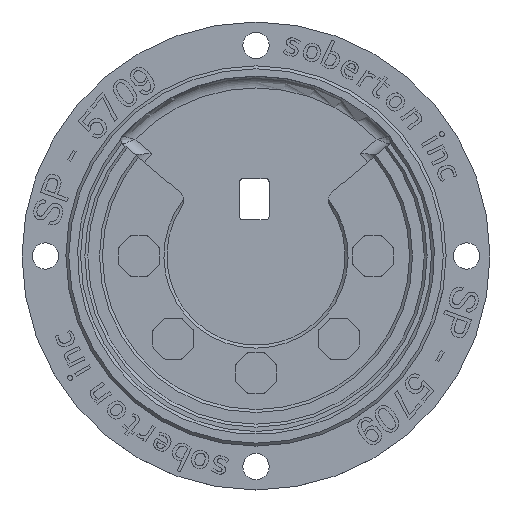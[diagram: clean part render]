
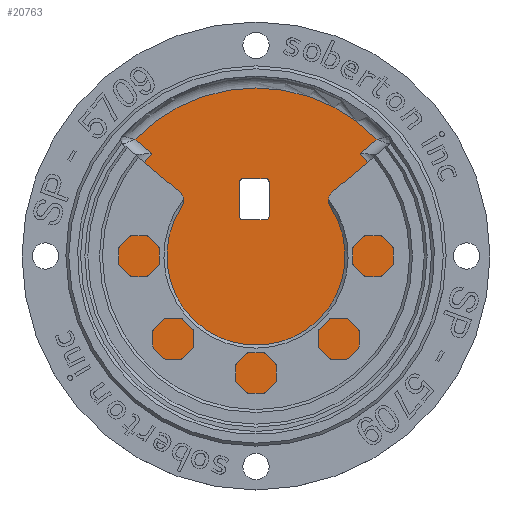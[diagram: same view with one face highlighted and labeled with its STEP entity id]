
A CAD part, top view. The second image highlights one B-rep face of the part: STEP entity #20763.
In plain terms, the highlighted planar face has unit normal (0, 0, 1).
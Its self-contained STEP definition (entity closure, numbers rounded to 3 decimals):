
#455=PLANE('',#21421);
#2391=VECTOR('',#21453,1.);
#2396=VECTOR('',#21477,1.);
#3577=VECTOR('',#23250,1.);
#3580=VECTOR('',#23258,1.);
#3583=VECTOR('',#23266,1.);
#3585=VECTOR('',#23273,1.);
#3990=LINE('',#24206,#2391);
#3995=LINE('',#24490,#2396);
#5176=LINE('',#34287,#3577);
#5179=LINE('',#34295,#3580);
#5182=LINE('',#34303,#3583);
#5184=LINE('',#34309,#3585);
#5583=VERTEX_POINT('',#24162);
#5594=VERTEX_POINT('',#24207);
#5596=VERTEX_POINT('',#24265);
#5604=VERTEX_POINT('',#24489);
#7321=VERTEX_POINT('',#34280);
#7322=VERTEX_POINT('',#34282);
#7323=VERTEX_POINT('',#34286);
#7324=VERTEX_POINT('',#34290);
#7325=VERTEX_POINT('',#34292);
#7326=VERTEX_POINT('',#34298);
#7327=VERTEX_POINT('',#34300);
#7328=VERTEX_POINT('',#34306);
#7658=CIRCLE('',#20776,28.75);
#7664=CIRCLE('',#20787,24.994);
#7776=CIRCLE('',#21203,0.5);
#7777=CIRCLE('',#21206,0.5);
#7778=CIRCLE('',#21209,0.5);
#7779=CIRCLE('',#21212,0.5);
#7847=EDGE_CURVE('',#5583,#5594,#3990,.T.);
#7851=EDGE_CURVE('',#5596,#5583,#7658,.T.);
#7863=EDGE_CURVE('',#5604,#5596,#3995,.T.);
#7874=EDGE_CURVE('',#5604,#5594,#7664,.T.);
#10297=EDGE_CURVE('',#7321,#7322,#7776,.T.);
#10300=EDGE_CURVE('',#7321,#7323,#5176,.T.);
#10302=EDGE_CURVE('',#7324,#7325,#7777,.T.);
#10304=EDGE_CURVE('',#7324,#7322,#5179,.T.);
#10306=EDGE_CURVE('',#7326,#7327,#7778,.T.);
#10308=EDGE_CURVE('',#7326,#7325,#5182,.T.);
#10310=EDGE_CURVE('',#7328,#7323,#7779,.T.);
#10311=EDGE_CURVE('',#7328,#7327,#5184,.T.);
#17138=ORIENTED_EDGE('',*,*,#7874,.T.);
#17139=ORIENTED_EDGE('',*,*,#7847,.F.);
#17140=ORIENTED_EDGE('',*,*,#7851,.F.);
#17141=ORIENTED_EDGE('',*,*,#7863,.F.);
#17142=ORIENTED_EDGE('',*,*,#10306,.F.);
#17143=ORIENTED_EDGE('',*,*,#10308,.T.);
#17144=ORIENTED_EDGE('',*,*,#10302,.F.);
#17145=ORIENTED_EDGE('',*,*,#10304,.T.);
#17146=ORIENTED_EDGE('',*,*,#10297,.F.);
#17147=ORIENTED_EDGE('',*,*,#10300,.T.);
#17148=ORIENTED_EDGE('',*,*,#10310,.F.);
#17149=ORIENTED_EDGE('',*,*,#10311,.T.);
#18390=EDGE_LOOP('',(#17138,#17139,#17140,#17141));
#18391=EDGE_LOOP('',(#17142,#17143,#17144,#17145,#17146,#17147,#17148,#17149));
#19632=FACE_BOUND('',#18390,.T.);
#19633=FACE_BOUND('',#18391,.T.);
#20763=ADVANCED_FACE('',(#19632,#19633),#455,.T.);
#20776=AXIS2_PLACEMENT_3D('',#24266,#21457,#21458);
#20787=AXIS2_PLACEMENT_3D('',#24512,#21491,#21492);
#21203=AXIS2_PLACEMENT_3D('',#34281,#23245,#23246);
#21206=AXIS2_PLACEMENT_3D('',#34291,#23254,#23255);
#21209=AXIS2_PLACEMENT_3D('',#34299,#23262,#23263);
#21212=AXIS2_PLACEMENT_3D('',#34307,#23270,#23271);
#21421=AXIS2_PLACEMENT_3D('',#36760,#23961,$);
#21453=DIRECTION('',(-0.766,-0.643,0.));
#21457=DIRECTION('',(0.,0.,-1.));
#21458=DIRECTION('',(0.,28.75,0.));
#21477=DIRECTION('',(-0.766,0.643,0.));
#21491=DIRECTION('',(0.,0.,1.));
#21492=DIRECTION('',(24.994,0.,0.));
#23245=DIRECTION('',(0.,0.,1.));
#23246=DIRECTION('',(-0.354,0.354,0.));
#23250=DIRECTION('',(1.,0.,0.));
#23254=DIRECTION('',(0.,0.,1.));
#23255=DIRECTION('',(-0.354,-0.354,0.));
#23258=DIRECTION('',(0.,1.,0.));
#23262=DIRECTION('',(0.,0.,1.));
#23263=DIRECTION('',(0.354,-0.354,0.));
#23266=DIRECTION('',(-1.,0.,0.));
#23270=DIRECTION('',(0.,0.,1.));
#23271=DIRECTION('',(0.354,0.354,0.));
#23273=DIRECTION('',(0.,-1.,0.));
#23961=DIRECTION('',(0.,0.,1.));
#24162=CARTESIAN_POINT('',(22.223,19.967,1.75));
#24206=CARTESIAN_POINT('',(6.141,6.474,1.75));
#24207=CARTESIAN_POINT('',(19.338,17.546,1.75));
#24265=CARTESIAN_POINT('',(-19.147,19.967,1.75));
#24266=CARTESIAN_POINT('',(1.538,0.,1.75));
#24489=CARTESIAN_POINT('',(-16.261,17.546,1.75));
#24490=CARTESIAN_POINT('',(-3.065,6.474,1.75));
#24512=CARTESIAN_POINT('',(1.538,0.,1.75));
#34280=CARTESIAN_POINT('',(-0.736,13.225,1.75));
#34281=CARTESIAN_POINT('',(-0.736,12.725,1.75));
#34282=CARTESIAN_POINT('',(-1.236,12.725,1.75));
#34286=CARTESIAN_POINT('',(3.264,13.225,1.75));
#34287=CARTESIAN_POINT('',(1.401,13.225,1.75));
#34290=CARTESIAN_POINT('',(-1.236,6.725,1.75));
#34291=CARTESIAN_POINT('',(-0.736,6.725,1.75));
#34292=CARTESIAN_POINT('',(-0.736,6.225,1.75));
#34295=CARTESIAN_POINT('',(-1.236,4.863,1.75));
#34298=CARTESIAN_POINT('',(3.264,6.225,1.75));
#34299=CARTESIAN_POINT('',(3.264,6.725,1.75));
#34300=CARTESIAN_POINT('',(3.764,6.725,1.75));
#34303=CARTESIAN_POINT('',(1.401,6.225,1.75));
#34306=CARTESIAN_POINT('',(3.764,12.725,1.75));
#34307=CARTESIAN_POINT('',(3.264,12.725,1.75));
#34309=CARTESIAN_POINT('',(3.764,4.863,1.75));
#36760=CARTESIAN_POINT('',(1.538,0.,1.75));
